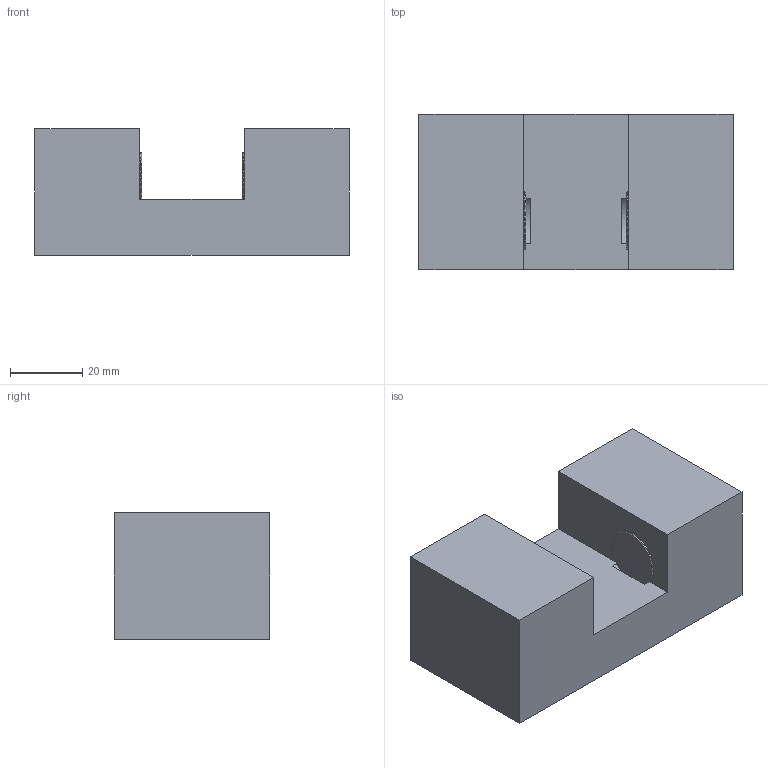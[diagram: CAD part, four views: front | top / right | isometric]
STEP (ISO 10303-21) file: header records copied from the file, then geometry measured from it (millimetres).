
FILE_DESCRIPTION((''),'2;1');
FILE_NAME('FRC30T02SE-DE01','2017-04-11T',('pietro.a'),(''),'CREO PARAMETRIC BY PTC INC, 2016050','CREO PARAMETRIC BY PTC INC, 2016050','');
FILE_SCHEMA(('CONFIG_CONTROL_DESIGN'));
Length unit declared in the file: millimetre
Products named in the file (1): FRC30T02SE-DE01
Bounding box: 87 x 43 x 35 mm (x, y, z)
Volume: 105181.8 mm3; surface area: 19006.5 mm2
Topology: 1 solids, 5 shells, 50 faces, 128 edges, 80 vertices
Faces by surface type: cylinder 20, plane 18, cone 8, torus 4
Entity records: 1519 total; most frequent: DIRECTION 282, CARTESIAN_POINT 251, ORIENTED_EDGE 224, EDGE_CURVE 120, AXIS2_PLACEMENT_3D 111, VERTEX_POINT 80, VECTOR 60, LINE 60
